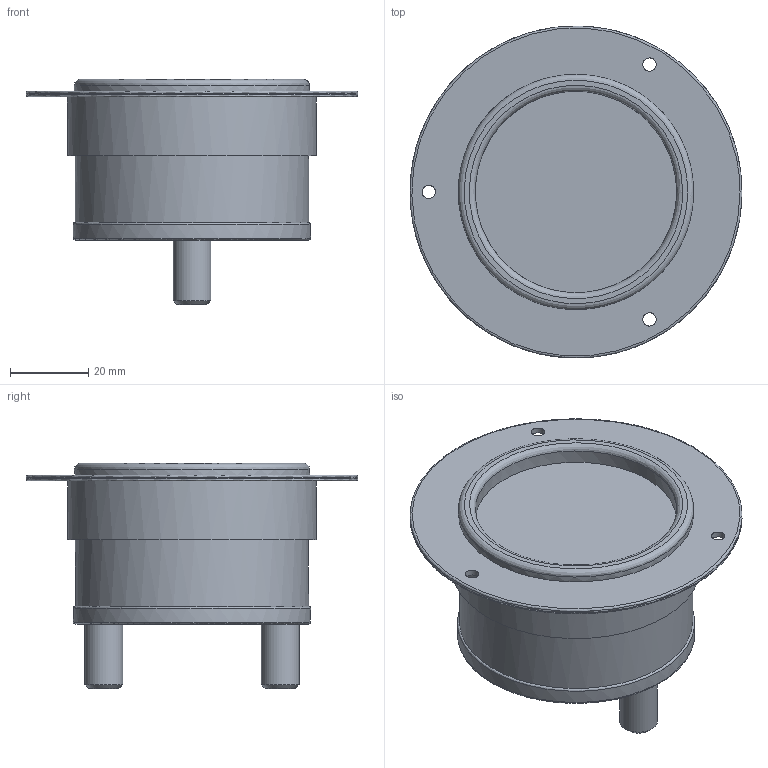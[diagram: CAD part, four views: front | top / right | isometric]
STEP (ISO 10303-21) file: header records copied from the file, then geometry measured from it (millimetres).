
FILE_DESCRIPTION(/* description */ (''),/* implementation_level */ '2;1');
FILE_NAME(/* name */ '3',/* time_stamp */ '2022-06-30T10:47:40+02:00',/* author */ (''),/* organization */ (''),/* preprocessor_version */ 'ST-DEVELOPER v16.5',/* originating_system */ 'Rhino 7.20',/* authorisation */ '');
FILE_SCHEMA (('AUTOMOTIVE_DESIGN_CC2'));
Length unit declared in the file: millimetre
Products named in the file (1): Document
Bounding box: 84.67 x 84.68 x 57.5 mm (x, y, z)
Volume: 116533.6 mm3; surface area: 20789.1 mm2
Topology: 1 solids, 1 shells, 27 faces, 48 edges, 29 vertices
Faces by surface type: cylinder 11, plane 8, bspline 8
Full cylindrical faces by diameter (mm): 3.4 x3, 9.64 x2, 51.4 x1, 59.5 x1, 60 x1, 60.5 x1, 63.5 x1, 84.7 x1
Entity records: 1512 total; most frequent: CARTESIAN_POINT 1133, ORIENTED_EDGE 96, EDGE_CURVE 48, EDGE_LOOP 39, VERTEX_POINT 29, ADVANCED_FACE 27, FACE_OUTER_BOUND 27, DIRECTION 23
